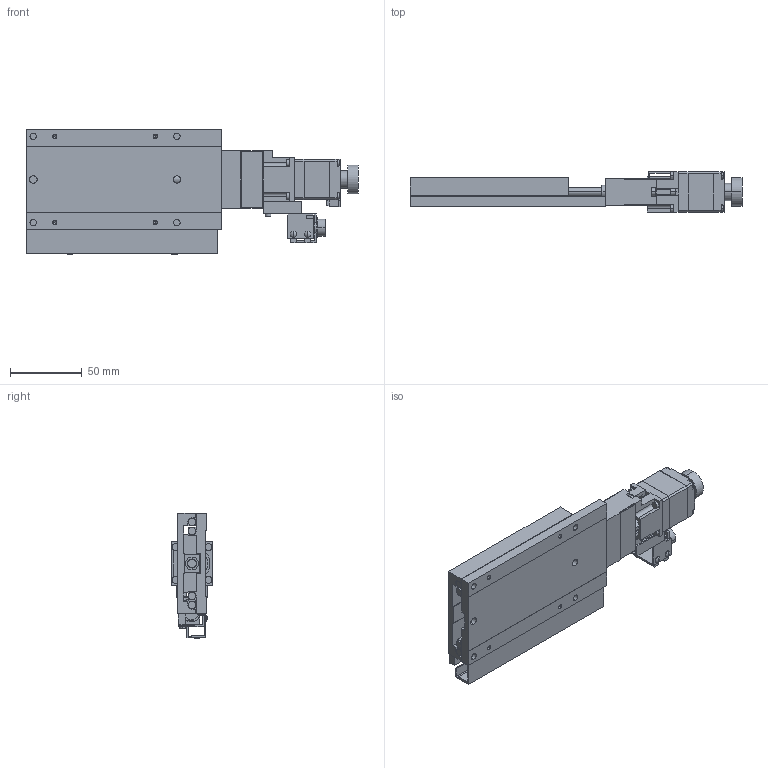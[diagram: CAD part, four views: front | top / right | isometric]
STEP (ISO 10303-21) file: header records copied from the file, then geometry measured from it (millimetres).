
FILE_DESCRIPTION(('STEP AP203'),'1');
FILE_NAME('C:/3D-Trans/3D_PG750M-R□-C4+231013.step','2023-10-13T07:23:15',(' '),(' '),'Spatial InterOp 3D',' ',' ');
FILE_SCHEMA(('CONFIG_CONTROL_DESIGN'));
Length unit declared in the file: millimetre
Products named in the file (6): 1; 2; 3; 4; 5; 6
Bounding box: 231 x 28 x 87.4 mm (x, y, z)
Volume: 182889.5 mm3; surface area: 89622.6 mm2
Topology: 6 solids, 6 shells, 753 faces, 1933 edges, 1226 vertices
Faces by surface type: plane 445, cylinder 228, cone 76, sphere 4
Entity records: 23105 total; most frequent: CARTESIAN_POINT 4082, DIRECTION 4005, ORIENTED_EDGE 3818, EDGE_CURVE 1909, AXIS2_PLACEMENT_3D 1345, LINE 1315, VECTOR 1315, VERTEX_POINT 1226
